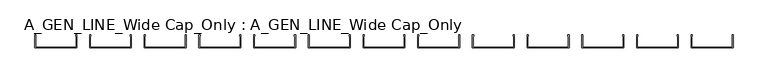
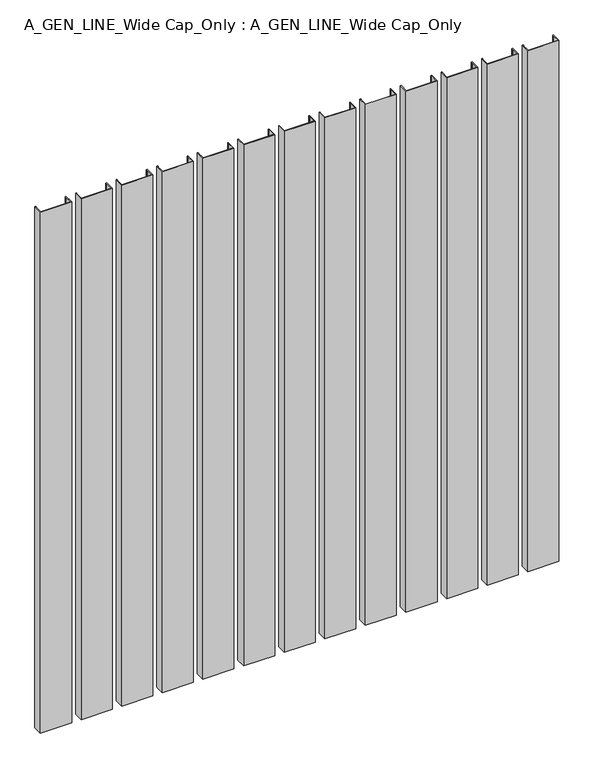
"""IFC4 building model written with IfcOpenShell, lengths in millimetres: proxy geometry, A_GEN_LINE_Wide Cap_Only : A_GEN_LINE_Wide Cap_Only."""

from ifc_helpers import new_model, si_unit, origin, origin_with_axes, place, context, project, spatial, polyline, outline, extrude, source, transform, mapped, element, save


def a_gen_line_wide_cap_only_a_gen_line_wide_cap_only_8896deaa(model_context):
    return source(origin(), model_context, "Body", "SweptSolid", [
        extrude(outline(polyline([(1327.2943263, -32.2007192), (1327.2943263, -6.1), (1329.4433332, -6.1), (1329.4433332, -8.3419727), (1328.6943263, -8.5826662), (1328.6943263, -30.8007192), (1410.5173407, -30.8007192), (1410.5173407, -8.5826662), (1409.7683338, -8.3419727), (1409.7683338, -6.1), (1411.9173407, -6.1), (1411.9173407, -32.2007192), (1327.2943263, -32.2007192)])), origin_with_axes(), (0.0, 0.0, 1.0), 1500.0),
        extrude(outline(polyline([(1216.6803784, -32.2007192), (1216.6803784, -6.1), (1218.8293853, -6.1), (1218.8293853, -8.3419727), (1218.0803784, -8.5826662), (1218.0803784, -30.8007192), (1299.9033928, -30.8007192), (1299.9033928, -8.5826662), (1299.1543859, -8.3419727), (1299.1543859, -6.1), (1301.3033928, -6.1), (1301.3033928, -32.2007192), (1216.6803784, -32.2007192)])), origin_with_axes(), (0.0, 0.0, 1.0), 1500.0),
        extrude(outline(polyline([(1106.0664305, -32.2007192), (1106.0664305, -6.1), (1108.2154375, -6.1), (1108.2154375, -8.3419727), (1107.4664305, -8.5826662), (1107.4664305, -30.8007192), (1189.289445, -30.8007192), (1189.289445, -8.5826662), (1188.540438, -8.3419727), (1188.540438, -6.1), (1190.689445, -6.1), (1190.689445, -32.2007192), (1106.0664305, -32.2007192)])), origin_with_axes(), (0.0, 0.0, 1.0), 1500.0),
        extrude(outline(polyline([(995.4524826, -32.2007192), (995.4524826, -6.1), (997.6014896, -6.1), (997.6014896, -8.3419727), (996.8524826, -8.5826662), (996.8524826, -30.8007192), (1078.6754971, -30.8007192), (1078.6754971, -8.5826662), (1077.9264901, -8.3419727), (1077.9264901, -6.1), (1080.0754971, -6.1), (1080.0754971, -32.2007192), (995.4524826, -32.2007192)])), origin_with_axes(), (0.0, 0.0, 1.0), 1500.0),
        extrude(outline(polyline([(884.8385347, -32.2007192), (884.8385347, -6.1), (886.9875417, -6.1), (886.9875417, -8.3419727), (886.2385347, -8.5826662), (886.2385347, -30.8007192), (968.0615492, -30.8007192), (968.0615492, -8.5826662), (967.3125422, -8.3419727), (967.3125422, -6.1), (969.4615492, -6.1), (969.4615492, -32.2007192), (884.8385347, -32.2007192)])), origin_with_axes(), (0.0, 0.0, 1.0), 1500.0),
        extrude(outline(polyline([(774.2245868, -32.2007192), (774.2245868, -6.1), (776.3735938, -6.1), (776.3735938, -8.3419727), (775.6245868, -8.5826662), (775.6245868, -30.8007192), (857.4476013, -30.8007192), (857.4476013, -8.5826662), (856.6985943, -8.3419727), (856.6985943, -6.1), (858.8476013, -6.1), (858.8476013, -32.2007192), (774.2245868, -32.2007192)])), origin_with_axes(), (0.0, 0.0, 1.0), 1500.0),
        extrude(outline(polyline([(663.6106389, -32.2007192), (663.6106389, -6.1), (665.7596459, -6.1), (665.7596459, -8.3419727), (665.0106389, -8.5826662), (665.0106389, -30.8007192), (746.8336534, -30.8007192), (746.8336534, -8.5826662), (746.0846464, -8.3419727), (746.0846464, -6.1), (748.2336534, -6.1), (748.2336534, -32.2007192), (663.6106389, -32.2007192)])), origin_with_axes(), (0.0, 0.0, 1.0), 1500.0),
        extrude(outline(polyline([(552.9966911, -32.2007192), (552.9966911, -6.1), (555.145698, -6.1), (555.145698, -8.3419727), (554.3966911, -8.5826662), (554.3966911, -30.8007192), (636.2197055, -30.8007192), (636.2197055, -8.5826662), (635.4706986, -8.3419727), (635.4706986, -6.1), (637.6197055, -6.1), (637.6197055, -32.2007192), (552.9966911, -32.2007192)])), origin_with_axes(), (0.0, 0.0, 1.0), 1500.0),
        extrude(outline(polyline([(442.3827432, -32.2007192), (442.3827432, -6.1), (444.5317501, -6.1), (444.5317501, -8.3419727), (443.7827432, -8.5826662), (443.7827432, -30.8007192), (525.6057576, -30.8007192), (525.6057576, -8.5826662), (524.8567507, -8.3419727), (524.8567507, -6.1), (527.0057576, -6.1), (527.0057576, -32.2007192), (442.3827432, -32.2007192)])), origin_with_axes(), (0.0, 0.0, 1.0), 1500.0),
        extrude(outline(polyline([(331.7687953, -32.2007192), (331.7687953, -6.1), (333.9178022, -6.1), (333.9178022, -8.3419727), (333.1687953, -8.5826662), (333.1687953, -30.8007192), (414.9918097, -30.8007192), (414.9918097, -8.5826662), (414.2428028, -8.3419727), (414.2428028, -6.1), (416.3918097, -6.1), (416.3918097, -32.2007192), (331.7687953, -32.2007192)])), origin_with_axes(), (0.0, 0.0, 1.0), 1500.0),
        extrude(outline(polyline([(221.1548474, -32.2007192), (221.1548474, -6.1), (223.3038544, -6.1), (223.3038544, -8.3419727), (222.5548474, -8.5826662), (222.5548474, -30.8007192), (304.3778618, -30.8007192), (304.3778618, -8.5826662), (303.6288549, -8.3419727), (303.6288549, -6.1), (305.7778618, -6.1), (305.7778618, -32.2007192), (221.1548474, -32.2007192)])), origin_with_axes(), (0.0, 0.0, 1.0), 1500.0),
        extrude(outline(polyline([(110.5408995, -32.2007192), (110.5408995, -6.1), (112.6899065, -6.1), (112.6899065, -8.3419727), (111.9408995, -8.5826662), (111.9408995, -30.8007192), (193.763914, -30.8007192), (193.763914, -8.5826662), (193.014907, -8.3419727), (193.014907, -6.1), (195.163914, -6.1), (195.163914, -32.2007192), (110.5408995, -32.2007192)])), origin_with_axes(), (0.0, 0.0, 1.0), 1500.0),
        extrude(outline(polyline([(-0.0730484, -32.2007192), (-0.0730484, -6.1), (2.0759586, -6.1), (2.0759586, -8.3419727), (1.3269516, -8.5826662), (1.3269516, -30.8007192), (83.1499661, -30.8007192), (83.1499661, -8.5826662), (82.4009591, -8.3419727), (82.4009591, -6.1), (84.5499661, -6.1), (84.5499661, -32.2007192), (-0.0730484, -32.2007192)])), origin_with_axes(), (0.0, 0.0, 1.0), 1500.0),
    ])


if __name__ == "__main__":
    model = new_model("IFC4")
    model_context = context("Model", 3, world=origin())
    ifc_project = project(units=[si_unit("LENGTHUNIT", "METRE", prefix="MILLI")], contexts=[model_context])
    site = spatial("IfcSite", under=ifc_project)
    building = spatial("IfcBuilding", under=site)
    placement = place(None, origin())
    a_gen_line_wide_cap_only_a_gen_line_wide_cap_only_shape = a_gen_line_wide_cap_only_a_gen_line_wide_cap_only_8896deaa(model_context)
    element("IfcBuildingElementProxy", 1, Name="A_GEN_LINE_Wide Cap_Only : A_GEN_LINE_Wide Cap_Only", ObjectType="A_GEN_LINE_Wide Cap_Only : A_GEN_LINE_Wide Cap_Only", at=placement, inside=building, context=model_context, shape_type="MappedRepresentation", body=[
        mapped(a_gen_line_wide_cap_only_a_gen_line_wide_cap_only_shape, transform((0.0, 0.0, 0.0), x_axis=(1.0, 0.0, 0.0), y_axis=(0.0, 1.0, 0.0), z_axis=(0.0, 0.0, 1.0))),
    ])
    save(model, "model.ifc")
